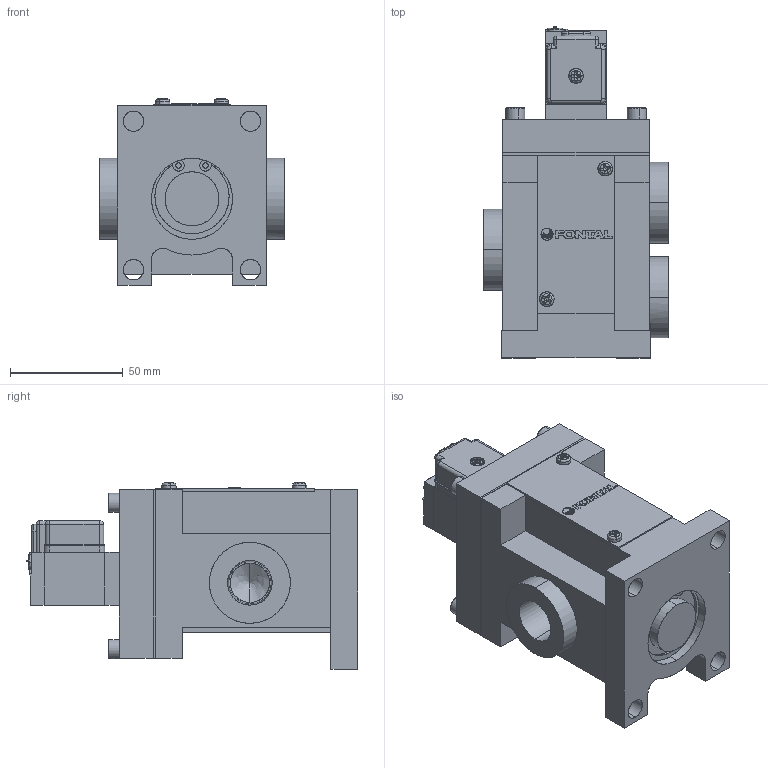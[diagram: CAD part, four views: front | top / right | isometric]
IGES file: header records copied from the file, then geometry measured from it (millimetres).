
Start section: SolidWorks IGES file using analytic representation for surfaces
Global section: file name: D:\Custom\3D繪製\PM\PM15\PMS2315#-04-#G#.IGS,1; native system: 5HSolidWorks 2014; preprocessor: SolidWorks 2014; author: Chieh_Lu; date: 151222.134707; units: millimetre
Bounding box: 82 x 147.47 x 83.05 mm (x, y, z)
Surface area: 94210.1 mm2 (no closed solid volume)
Topology: 0 solids, 0 shells, 658 faces, 7472 edges, 7445 vertices
Faces by surface type: bspline 411, revolution 247
